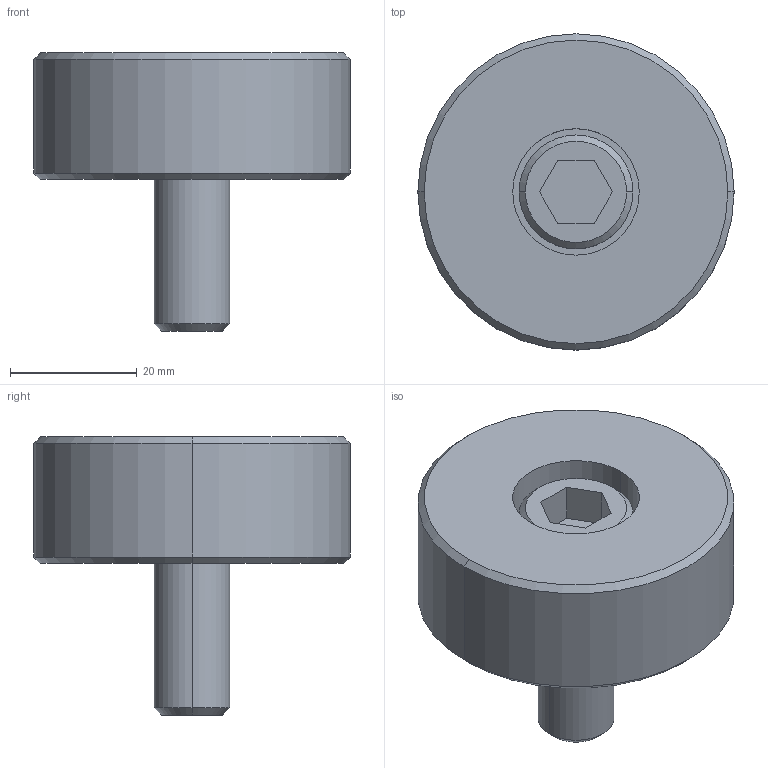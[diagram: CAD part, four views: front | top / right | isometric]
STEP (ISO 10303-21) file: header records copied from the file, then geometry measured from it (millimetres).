
FILE_DESCRIPTION((''),'2;1');
FILE_NAME('','2010-08-30T16:48:47+09:00',('misumi'),(''),'M/STEP i/f 1R2-14','CADmeister v5.1','');
FILE_SCHEMA(('AUTOMOTIVE_DESIGN'));
Length unit declared in the file: millimetre
Products named in the file (1): DEB50-20-Y
Bounding box: 50 x 50 x 44 mm (x, y, z)
Volume: 39667.4 mm3; surface area: 10181.2 mm2
Topology: 2 solids, 2 shells, 31 faces, 64 edges, 40 vertices
Faces by surface type: plane 13, cylinder 10, cone 8
Entity records: 924 total; most frequent: DIRECTION 156, CARTESIAN_POINT 136, ORIENTED_EDGE 128, EDGE_CURVE 64, AXIS2_PLACEMENT_3D 60, VERTEX_POINT 40, LINE 36, VECTOR 36
